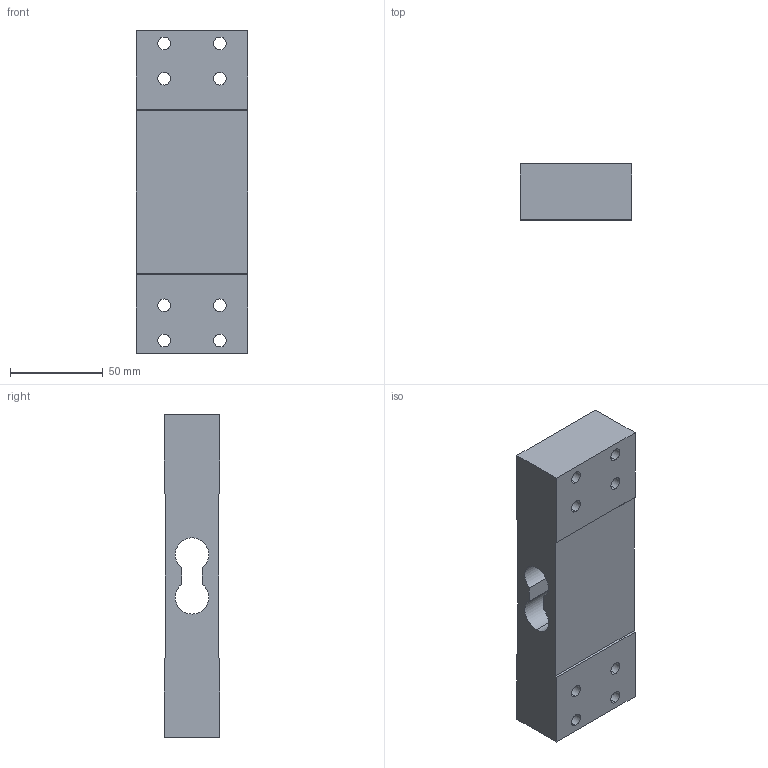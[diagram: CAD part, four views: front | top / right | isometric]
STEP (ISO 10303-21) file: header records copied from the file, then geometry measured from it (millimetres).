
FILE_DESCRIPTION (( 'STEP AP203' ), '1' );
FILE_NAME ('rap4.STEP', '2018-05-24T02:49:13', ( '' ), ( '' ), 'SwSTEP 2.0', 'SolidWorks 2016', '' );
FILE_SCHEMA (( 'CONFIG_CONTROL_DESIGN' ));
Length unit declared in the file: millimetre
Products named in the file (1): rap4
Bounding box: 60 x 30 x 174 mm (x, y, z)
Volume: 262368.1 mm3; surface area: 44548.4 mm2
Topology: 1 solids, 1 shells, 35 faces, 99 edges, 66 vertices
Faces by surface type: cylinder 19, plane 16
Entity records: 1264 total; most frequent: DIRECTION 209, CARTESIAN_POINT 201, ORIENTED_EDGE 198, EDGE_CURVE 99, AXIS2_PLACEMENT_3D 74, VERTEX_POINT 66, LINE 61, VECTOR 61
